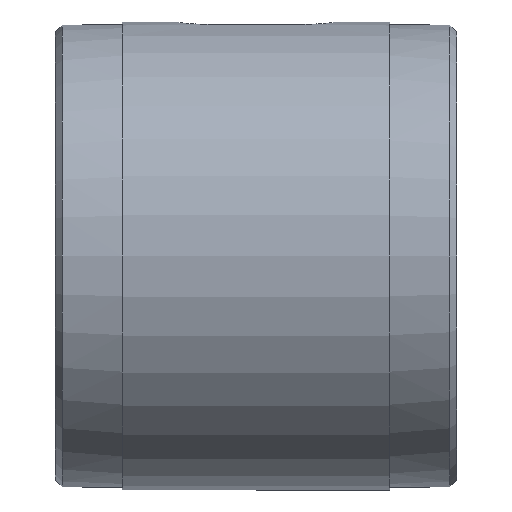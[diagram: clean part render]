
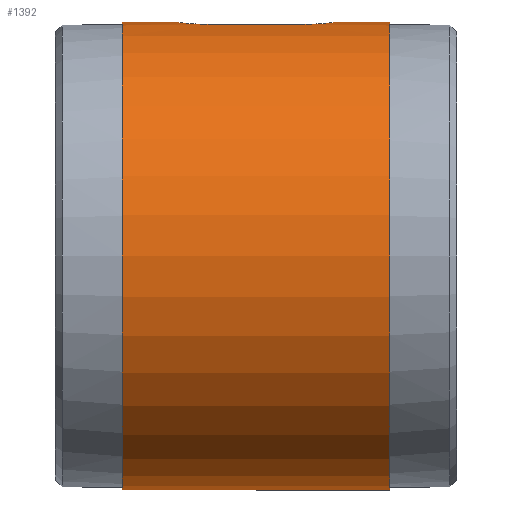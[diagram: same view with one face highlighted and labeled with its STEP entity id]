
A CAD part, front view. The second image highlights one B-rep face of the part: STEP entity #1392.
In plain terms, the highlighted cylindrical face has radius 17.5 mm (diameter 35 mm), a partial arc.
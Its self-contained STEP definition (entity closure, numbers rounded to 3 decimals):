
#5 = EDGE_CURVE ( 'NONE', #1408, #614, #277, .T. ) ;
#16 = CARTESIAN_POINT ( 'NONE',  ( -9.847, -1.882, 17.399 ) ) ;
#53 = CARTESIAN_POINT ( 'NONE',  ( -20.984, -0.329, 17.498 ) ) ;
#62 = CARTESIAN_POINT ( 'NONE',  ( -18.831, -2.483, 17.323 ) ) ;
#75 = FACE_OUTER_BOUND ( 'NONE', #657, .T. ) ;
#80 = VERTEX_POINT ( 'NONE', #218 ) ;
#103 = VECTOR ( 'NONE', #1206, 1000. ) ;
#126 = CARTESIAN_POINT ( 'NONE',  ( -11.5, -2.5, 17.321 ) ) ;
#130 = CARTESIAN_POINT ( 'NONE',  ( -9.513, -1.526, 17.434 ) ) ;
#134 = CARTESIAN_POINT ( 'NONE',  ( -37.06, 0., 17.5 ) ) ;
#156 = CARTESIAN_POINT ( 'NONE',  ( -25., 0., 17.5 ) ) ;
#161 = CARTESIAN_POINT ( 'NONE',  ( -20.872, -0.805, 17.482 ) ) ;
#165 = CARTESIAN_POINT ( 'NONE',  ( -18.5, -2.5, 17.321 ) ) ;
#171 = CARTESIAN_POINT ( 'NONE',  ( -5., 0., 0. ) ) ;
#186 = AXIS2_PLACEMENT_3D ( 'NONE', #603, #1348, #713 ) ;
#204 = EDGE_CURVE ( 'NONE', #1125, #995, #961, .T. ) ;
#218 = CARTESIAN_POINT ( 'NONE',  ( -5., 0., -17.5 ) ) ;
#239 = CARTESIAN_POINT ( 'NONE',  ( -9.253, -1.107, 17.466 ) ) ;
#249 = EDGE_CURVE ( 'NONE', #1243, #916, #1139, .T. ) ;
#261 = AXIS2_PLACEMENT_3D ( 'NONE', #171, #925, #282 ) ;
#267 = LINE ( 'NONE', #1320, #1339 ) ;
#270 = CARTESIAN_POINT ( 'NONE',  ( -20.669, -1.254, 17.456 ) ) ;
#277 = LINE ( 'NONE', #751, #1389 ) ;
#282 = DIRECTION ( 'NONE',  ( 0., 0., 1. ) ) ;
#308 = CIRCLE ( 'NONE', #261, 17.5 ) ;
#350 = CARTESIAN_POINT ( 'NONE',  ( -9.08, -0.649, 17.489 ) ) ;
#368 = DIRECTION ( 'NONE',  ( -1., 0., 0. ) ) ;
#385 = CARTESIAN_POINT ( 'NONE',  ( -20.385, -1.651, 17.422 ) ) ;
#404 = DIRECTION ( 'NONE',  ( -1., 0., 0. ) ) ;
#439 = DIRECTION ( 'NONE',  ( 0., 0., 1. ) ) ;
#456 = CARTESIAN_POINT ( 'NONE',  ( -10.852, -2.42, 17.332 ) ) ;
#462 = CARTESIAN_POINT ( 'NONE',  ( -9., -0.163, 17.5 ) ) ;
#473 = B_SPLINE_CURVE_WITH_KNOTS ( 'NONE', 3,
 ( #126, #981, #1087, #456, #1199, #559, #1305, #677, #16, #780, #130, #879, #239, #986, #350, #1090, #462, #1203 ),
 .UNSPECIFIED., .F., .F.,
 ( 4, 2, 2, 2, 2, 2, 2, 2, 4 ),
 ( 0., 0., 0.001, 0.001, 0.002, 0.002, 0.003, 0.003, 0.004 ),
 .UNSPECIFIED. ) ;
#481 = DIRECTION ( 'NONE',  ( 1., 0., 0. ) ) ;
#487 = CARTESIAN_POINT ( 'NONE',  ( -21., 0., 17.5 ) ) ;
#491 = CARTESIAN_POINT ( 'NONE',  ( -20.026, -1.987, 17.387 ) ) ;
#536 = DIRECTION ( 'NONE',  ( -1., 0., 0. ) ) ;
#542 = CARTESIAN_POINT ( 'NONE',  ( -21., 0., 17.5 ) ) ;
#559 = CARTESIAN_POINT ( 'NONE',  ( -10.39, -2.246, 17.355 ) ) ;
#599 = CARTESIAN_POINT ( 'NONE',  ( -19.609, -2.246, 17.355 ) ) ;
#603 = CARTESIAN_POINT ( 'NONE',  ( -25., 0., 0. ) ) ;
#614 = VERTEX_POINT ( 'NONE', #156 ) ;
#624 = EDGE_CURVE ( 'NONE', #1408, #1243, #710, .T. ) ;
#628 = CARTESIAN_POINT ( 'NONE',  ( -25., 0., -17.5 ) ) ;
#646 = EDGE_CURVE ( 'NONE', #80, #1125, #308, .T. ) ;
#657 = EDGE_LOOP ( 'NONE', ( #996, #1405, #970, #1327, #726, #887, #659, #1089 ) ) ;
#659 = ORIENTED_EDGE ( 'NONE', *, *, #5, .T. ) ;
#677 = CARTESIAN_POINT ( 'NONE',  ( -9.975, -1.988, 17.387 ) ) ;
#705 = CARTESIAN_POINT ( 'NONE',  ( -21., -0.163, 17.5 ) ) ;
#709 = CARTESIAN_POINT ( 'NONE',  ( -19.151, -2.419, 17.332 ) ) ;
#710 = B_SPLINE_CURVE_WITH_KNOTS ( 'NONE', 3,
 ( #487, #705, #53, #807, #161, #914, #270, #1022, #385, #1122, #491, #1236, #599, #1345, #709, #62, #815, #165 ),
 .UNSPECIFIED., .F., .F.,
 ( 4, 2, 2, 2, 2, 2, 2, 2, 4 ),
 ( 0.004, 0.004, 0.005, 0.005, 0.006, 0.006, 0.007, 0.007, 0.008 ),
 .UNSPECIFIED. ) ;
#713 = DIRECTION ( 'NONE',  ( 0., 0., 1. ) ) ;
#719 = CARTESIAN_POINT ( 'NONE',  ( -9., 0., 17.5 ) ) ;
#726 = ORIENTED_EDGE ( 'NONE', *, *, #249, .F. ) ;
#751 = CARTESIAN_POINT ( 'NONE',  ( -37.06, 0., 17.5 ) ) ;
#780 = CARTESIAN_POINT ( 'NONE',  ( -9.616, -1.652, 17.422 ) ) ;
#807 = CARTESIAN_POINT ( 'NONE',  ( -20.92, -0.65, 17.489 ) ) ;
#815 = CARTESIAN_POINT ( 'NONE',  ( -18.665, -2.5, 17.321 ) ) ;
#855 = VECTOR ( 'NONE', #481, 1000. ) ;
#879 = CARTESIAN_POINT ( 'NONE',  ( -9.33, -1.253, 17.456 ) ) ;
#887 = ORIENTED_EDGE ( 'NONE', *, *, #624, .F. ) ;
#914 = CARTESIAN_POINT ( 'NONE',  ( -20.747, -1.108, 17.466 ) ) ;
#916 = VERTEX_POINT ( 'NONE', #1222 ) ;
#925 = DIRECTION ( 'NONE',  ( -1., 0., 0. ) ) ;
#953 = AXIS2_PLACEMENT_3D ( 'NONE', #963, #536, #439 ) ;
#961 = LINE ( 'NONE', #134, #103 ) ;
#963 = CARTESIAN_POINT ( 'NONE',  ( -37.06, 0., 0. ) ) ;
#967 = EDGE_CURVE ( 'NONE', #1061, #614, #1364, .T. ) ;
#970 = ORIENTED_EDGE ( 'NONE', *, *, #204, .T. ) ;
#981 = CARTESIAN_POINT ( 'NONE',  ( -11.335, -2.5, 17.321 ) ) ;
#986 = CARTESIAN_POINT ( 'NONE',  ( -9.128, -0.807, 17.482 ) ) ;
#995 = VERTEX_POINT ( 'NONE', #719 ) ;
#996 = ORIENTED_EDGE ( 'NONE', *, *, #1200, .F. ) ;
#1013 = CARTESIAN_POINT ( 'NONE',  ( -18.5, -2.5, 17.321 ) ) ;
#1022 = CARTESIAN_POINT ( 'NONE',  ( -20.488, -1.525, 17.434 ) ) ;
#1061 = VERTEX_POINT ( 'NONE', #628 ) ;
#1087 = CARTESIAN_POINT ( 'NONE',  ( -11.172, -2.484, 17.323 ) ) ;
#1089 = ORIENTED_EDGE ( 'NONE', *, *, #967, .F. ) ;
#1090 = CARTESIAN_POINT ( 'NONE',  ( -9.016, -0.326, 17.498 ) ) ;
#1122 = CARTESIAN_POINT ( 'NONE',  ( -20.152, -1.884, 17.399 ) ) ;
#1125 = VERTEX_POINT ( 'NONE', #1192 ) ;
#1136 = EDGE_CURVE ( 'NONE', #916, #995, #473, .T. ) ;
#1139 = LINE ( 'NONE', #1218, #855 ) ;
#1140 = CYLINDRICAL_SURFACE ( 'NONE', #953, 17.5 ) ;
#1192 = CARTESIAN_POINT ( 'NONE',  ( -5., 0., 17.5 ) ) ;
#1199 = CARTESIAN_POINT ( 'NONE',  ( -10.693, -2.372, 17.339 ) ) ;
#1200 = EDGE_CURVE ( 'NONE', #80, #1061, #267, .T. ) ;
#1203 = CARTESIAN_POINT ( 'NONE',  ( -9., 0., 17.5 ) ) ;
#1206 = DIRECTION ( 'NONE',  ( -1., 0., 0. ) ) ;
#1218 = CARTESIAN_POINT ( 'NONE',  ( -37.06, -2.5, 17.321 ) ) ;
#1222 = CARTESIAN_POINT ( 'NONE',  ( -11.5, -2.5, 17.321 ) ) ;
#1236 = CARTESIAN_POINT ( 'NONE',  ( -19.755, -2.168, 17.365 ) ) ;
#1243 = VERTEX_POINT ( 'NONE', #1013 ) ;
#1305 = CARTESIAN_POINT ( 'NONE',  ( -10.247, -2.169, 17.365 ) ) ;
#1320 = CARTESIAN_POINT ( 'NONE',  ( -37.06, 0., -17.5 ) ) ;
#1327 = ORIENTED_EDGE ( 'NONE', *, *, #1136, .F. ) ;
#1339 = VECTOR ( 'NONE', #368, 1000. ) ;
#1345 = CARTESIAN_POINT ( 'NONE',  ( -19.307, -2.372, 17.339 ) ) ;
#1348 = DIRECTION ( 'NONE',  ( -1., 0., 0. ) ) ;
#1364 = CIRCLE ( 'NONE', #186, 17.5 ) ;
#1389 = VECTOR ( 'NONE', #404, 1000. ) ;
#1392 = ADVANCED_FACE ( 'NONE', ( #75 ), #1140, .T. ) ;
#1405 = ORIENTED_EDGE ( 'NONE', *, *, #646, .T. ) ;
#1408 = VERTEX_POINT ( 'NONE', #542 ) ;
